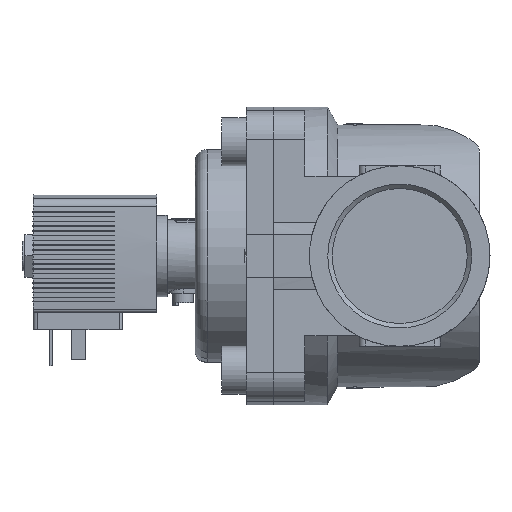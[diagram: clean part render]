
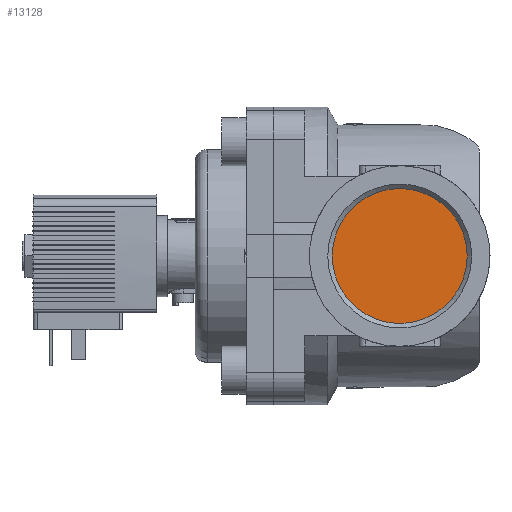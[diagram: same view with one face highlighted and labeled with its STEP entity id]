
A CAD part, left-side view. The second image highlights one B-rep face of the part: STEP entity #13128.
In plain terms, the highlighted planar face has unit normal (-1, 0, 0).
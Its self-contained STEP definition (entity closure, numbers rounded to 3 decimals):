
#3832=ORIENTED_EDGE('',*,*,#6287,.F.);
#6287=EDGE_CURVE('',#7623,#7623,#8381,.T.);
#7623=VERTEX_POINT('',#18877);
#8381=CIRCLE('',#13908,22.423);
#8784=EDGE_LOOP('',(#3832));
#9390=FACE_BOUND('',#8784,.T.);
#9879=PLANE('',#13909);
#13128=ADVANCED_FACE('',(#9390),#9879,.T.);
#13908=AXIS2_PLACEMENT_3D('',#18876,#15644,#15645);
#13909=AXIS2_PLACEMENT_3D('',#18878,#15646,#15647);
#15644=DIRECTION('',(1.,0.,0.));
#15645=DIRECTION('',(0.,0.,-1.));
#15646=DIRECTION('',(-1.,0.,0.));
#15647=DIRECTION('',(0.,0.,1.));
#18876=CARTESIAN_POINT('',(-36.,0.,0.));
#18877=CARTESIAN_POINT('',(-36.,0.,-22.423));
#18878=CARTESIAN_POINT('',(-36.,22.423,0.));
